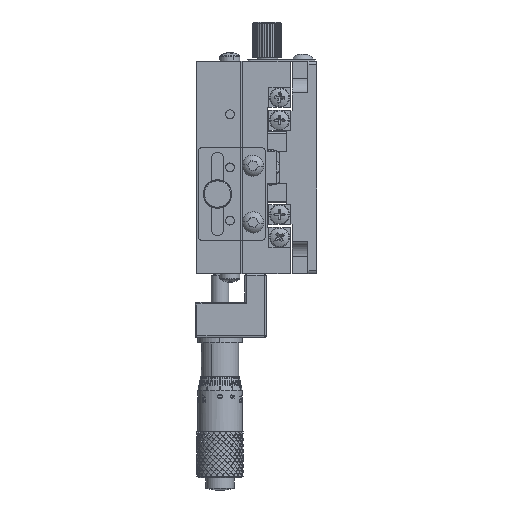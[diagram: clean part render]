
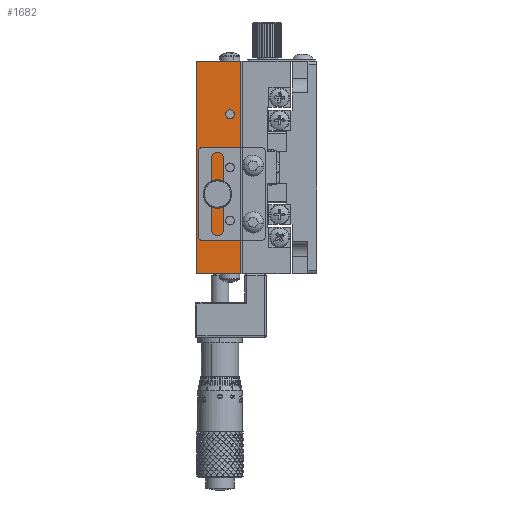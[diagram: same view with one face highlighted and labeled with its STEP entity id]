
A CAD part, left-side view. The second image highlights one B-rep face of the part: STEP entity #1682.
In plain terms, the highlighted planar face has unit normal (-1, 0, 0).
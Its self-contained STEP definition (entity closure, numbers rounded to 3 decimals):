
#1682 = ADVANCED_FACE ( 'NONE', ( #165471, #165461, #165435, #165409, #165433 ), #197799, .F. ) ;
#49345 = EDGE_CURVE ( 'NONE', #86403, #86704, #260345, .T. ) ;
#49504 = EDGE_CURVE ( 'NONE', #86463, #86631, #260616, .T. ) ;
#49642 = EDGE_CURVE ( 'NONE', #86652, #86583, #260365, .T. ) ;
#49676 = EDGE_CURVE ( 'NONE', #86474, #87270, #260500, .T. ) ;
#49766 = EDGE_CURVE ( 'NONE', #86798, #86422, #260939, .T. ) ;
#49898 = EDGE_CURVE ( 'NONE', #86583, #86652, #261301, .T. ) ;
#49934 = EDGE_CURVE ( 'NONE', #86422, #86798, #261372, .T. ) ;
#49998 = EDGE_CURVE ( 'NONE', #86704, #86403, #261365, .T. ) ;
#50073 = EDGE_CURVE ( 'NONE', #86631, #86463, #261504, .T. ) ;
#50160 = EDGE_CURVE ( 'NONE', #87270, #87094, #261825, .T. ) ;
#50177 = EDGE_CURVE ( 'NONE', #86757, #87094, #261612, .T. ) ;
#50244 = EDGE_CURVE ( 'NONE', #86474, #86757, #261748, .T. ) ;
#85248 = ORIENTED_EDGE ( 'NONE', *, *, #50073, .F. ) ;
#85252 = ORIENTED_EDGE ( 'NONE', *, *, #50177, .F. ) ;
#85269 = ORIENTED_EDGE ( 'NONE', *, *, #49345, .F. ) ;
#85339 = ORIENTED_EDGE ( 'NONE', *, *, #49504, .F. ) ;
#85351 = ORIENTED_EDGE ( 'NONE', *, *, #49934, .F. ) ;
#85381 = ORIENTED_EDGE ( 'NONE', *, *, #49898, .F. ) ;
#85411 = ORIENTED_EDGE ( 'NONE', *, *, #49676, .T. ) ;
#85438 = ORIENTED_EDGE ( 'NONE', *, *, #49998, .F. ) ;
#85473 = ORIENTED_EDGE ( 'NONE', *, *, #50160, .T. ) ;
#85484 = ORIENTED_EDGE ( 'NONE', *, *, #49766, .F. ) ;
#85493 = ORIENTED_EDGE ( 'NONE', *, *, #50244, .F. ) ;
#85508 = ORIENTED_EDGE ( 'NONE', *, *, #49642, .F. ) ;
#86403 = VERTEX_POINT ( 'NONE', #140640 ) ;
#86422 = VERTEX_POINT ( 'NONE', #140649 ) ;
#86463 = VERTEX_POINT ( 'NONE', #140728 ) ;
#86474 = VERTEX_POINT ( 'NONE', #140755 ) ;
#86583 = VERTEX_POINT ( 'NONE', #140916 ) ;
#86631 = VERTEX_POINT ( 'NONE', #140796 ) ;
#86652 = VERTEX_POINT ( 'NONE', #140786 ) ;
#86704 = VERTEX_POINT ( 'NONE', #141019 ) ;
#86757 = VERTEX_POINT ( 'NONE', #140882 ) ;
#86798 = VERTEX_POINT ( 'NONE', #141212 ) ;
#87094 = VERTEX_POINT ( 'NONE', #141319 ) ;
#87270 = VERTEX_POINT ( 'NONE', #141719 ) ;
#113800 = AXIS2_PLACEMENT_3D ( 'NONE', #267029, #267032, #267035 ) ;
#113814 = AXIS2_PLACEMENT_3D ( 'NONE', #266786, #266792, #266973 ) ;
#113871 = AXIS2_PLACEMENT_3D ( 'NONE', #263183, #263146, #263207 ) ;
#113877 = AXIS2_PLACEMENT_3D ( 'NONE', #264121, #264040, #264112 ) ;
#113880 = AXIS2_PLACEMENT_3D ( 'NONE', #264283, #264317, #264244 ) ;
#113881 = AXIS2_PLACEMENT_3D ( 'NONE', #264538, #264611, #264603 ) ;
#113903 = AXIS2_PLACEMENT_3D ( 'NONE', #263596, #263749, #263549 ) ;
#113919 = AXIS2_PLACEMENT_3D ( 'NONE', #263958, #263963, #263757 ) ;
#140640 = CARTESIAN_POINT ( 'NONE',  ( 96.008, -37.139, -26.268 ) ) ;
#140649 = CARTESIAN_POINT ( 'NONE',  ( 96.008, -40.639, -1.268 ) ) ;
#140728 = CARTESIAN_POINT ( 'NONE',  ( 96.008, -40.639, -18.768 ) ) ;
#140755 = CARTESIAN_POINT ( 'NONE',  ( 96.008, -31.139, 12.482 ) ) ;
#140786 = CARTESIAN_POINT ( 'NONE',  ( 96.008, -40.639, -33.768 ) ) ;
#140796 = CARTESIAN_POINT ( 'NONE',  ( 96.008, -40.639, -16.268 ) ) ;
#140882 = CARTESIAN_POINT ( 'NONE',  ( 96.008, -43.639, 12.482 ) ) ;
#140916 = CARTESIAN_POINT ( 'NONE',  ( 96.008, -40.639, -31.268 ) ) ;
#141019 = CARTESIAN_POINT ( 'NONE',  ( 96.008, -37.139, -23.768 ) ) ;
#141212 = CARTESIAN_POINT ( 'NONE',  ( 96.008, -40.639, -3.768 ) ) ;
#141319 = CARTESIAN_POINT ( 'NONE',  ( 96.008, -43.639, -47.518 ) ) ;
#141719 = CARTESIAN_POINT ( 'NONE',  ( 96.008, -31.139, -47.518 ) ) ;
#164445 = EDGE_LOOP ( 'NONE', ( #85351, #85484 ) ) ;
#164508 = EDGE_LOOP ( 'NONE', ( #85381, #85508 ) ) ;
#164652 = EDGE_LOOP ( 'NONE', ( #85438, #85269 ) ) ;
#164713 = EDGE_LOOP ( 'NONE', ( #85248, #85339 ) ) ;
#164737 = EDGE_LOOP ( 'NONE', ( #85473, #85252, #85493, #85411 ) ) ;
#165409 = FACE_OUTER_BOUND ( 'NONE', #164737, .T. ) ;
#165433 = FACE_BOUND ( 'NONE', #164445, .T. ) ;
#165435 = FACE_BOUND ( 'NONE', #164652, .T. ) ;
#165461 = FACE_BOUND ( 'NONE', #164508, .T. ) ;
#165471 = FACE_BOUND ( 'NONE', #164713, .T. ) ;
#197713 = DIRECTION ( 'NONE',  ( 1., 0., 0. ) ) ;
#197799 = PLANE ( 'NONE',  #409217 ) ;
#197819 = DIRECTION ( 'NONE',  ( 0., 0., -1. ) ) ;
#197894 = CARTESIAN_POINT ( 'NONE',  ( 96.008, -43.639, 12.482 ) ) ;
#260345 = CIRCLE ( 'NONE', #113814, 1.25 ) ;
#260365 = CIRCLE ( 'NONE', #113871, 1.25 ) ;
#260500 = LINE ( 'NONE', #263267, #260734 ) ;
#260616 = CIRCLE ( 'NONE', #113800, 1.25 ) ;
#260734 = VECTOR ( 'NONE', #263109, 1000. ) ;
#260939 = CIRCLE ( 'NONE', #113903, 1.25 ) ;
#261301 = CIRCLE ( 'NONE', #113919, 1.25 ) ;
#261365 = CIRCLE ( 'NONE', #113880, 1.25 ) ;
#261372 = CIRCLE ( 'NONE', #113877, 1.25 ) ;
#261504 = CIRCLE ( 'NONE', #113881, 1.25 ) ;
#261612 = LINE ( 'NONE', #264843, #261964 ) ;
#261692 = VECTOR ( 'NONE', #264877, 1000. ) ;
#261748 = LINE ( 'NONE', #264864, #261692 ) ;
#261825 = LINE ( 'NONE', #264720, #261857 ) ;
#261857 = VECTOR ( 'NONE', #264645, 1000. ) ;
#261964 = VECTOR ( 'NONE', #264764, 1000. ) ;
#263109 = DIRECTION ( 'NONE',  ( 0., 0., -1. ) ) ;
#263146 = DIRECTION ( 'NONE',  ( -1., 0., 0. ) ) ;
#263183 = CARTESIAN_POINT ( 'NONE',  ( 96.008, -40.639, -32.518 ) ) ;
#263207 = DIRECTION ( 'NONE',  ( 0., 0., 1. ) ) ;
#263267 = CARTESIAN_POINT ( 'NONE',  ( 96.008, -31.139, 12.482 ) ) ;
#263549 = DIRECTION ( 'NONE',  ( 0., 0., 1. ) ) ;
#263596 = CARTESIAN_POINT ( 'NONE',  ( 96.008, -40.639, -2.518 ) ) ;
#263749 = DIRECTION ( 'NONE',  ( -1., 0., 0. ) ) ;
#263757 = DIRECTION ( 'NONE',  ( 0., 0., 1. ) ) ;
#263958 = CARTESIAN_POINT ( 'NONE',  ( 96.008, -40.639, -32.518 ) ) ;
#263963 = DIRECTION ( 'NONE',  ( -1., 0., 0. ) ) ;
#264040 = DIRECTION ( 'NONE',  ( -1., 0., 0. ) ) ;
#264112 = DIRECTION ( 'NONE',  ( 0., 0., 1. ) ) ;
#264121 = CARTESIAN_POINT ( 'NONE',  ( 96.008, -40.639, -2.518 ) ) ;
#264244 = DIRECTION ( 'NONE',  ( 0., 0., 1. ) ) ;
#264283 = CARTESIAN_POINT ( 'NONE',  ( 96.008, -37.139, -25.018 ) ) ;
#264317 = DIRECTION ( 'NONE',  ( -1., 0., 0. ) ) ;
#264538 = CARTESIAN_POINT ( 'NONE',  ( 96.008, -40.639, -17.518 ) ) ;
#264603 = DIRECTION ( 'NONE',  ( 0., 0., 1. ) ) ;
#264611 = DIRECTION ( 'NONE',  ( -1., 0., 0. ) ) ;
#264645 = DIRECTION ( 'NONE',  ( 0., -1., 0. ) ) ;
#264720 = CARTESIAN_POINT ( 'NONE',  ( 96.008, -43.639, -47.518 ) ) ;
#264764 = DIRECTION ( 'NONE',  ( 0., 0., -1. ) ) ;
#264843 = CARTESIAN_POINT ( 'NONE',  ( 96.008, -43.639, 12.482 ) ) ;
#264864 = CARTESIAN_POINT ( 'NONE',  ( 96.008, -43.639, 12.482 ) ) ;
#264877 = DIRECTION ( 'NONE',  ( 0., -1., 0. ) ) ;
#266786 = CARTESIAN_POINT ( 'NONE',  ( 96.008, -37.139, -25.018 ) ) ;
#266792 = DIRECTION ( 'NONE',  ( -1., 0., 0. ) ) ;
#266973 = DIRECTION ( 'NONE',  ( 0., 0., 1. ) ) ;
#267029 = CARTESIAN_POINT ( 'NONE',  ( 96.008, -40.639, -17.518 ) ) ;
#267032 = DIRECTION ( 'NONE',  ( -1., 0., 0. ) ) ;
#267035 = DIRECTION ( 'NONE',  ( 0., 0., 1. ) ) ;
#409217 = AXIS2_PLACEMENT_3D ( 'NONE', #197894, #197713, #197819 ) ;
